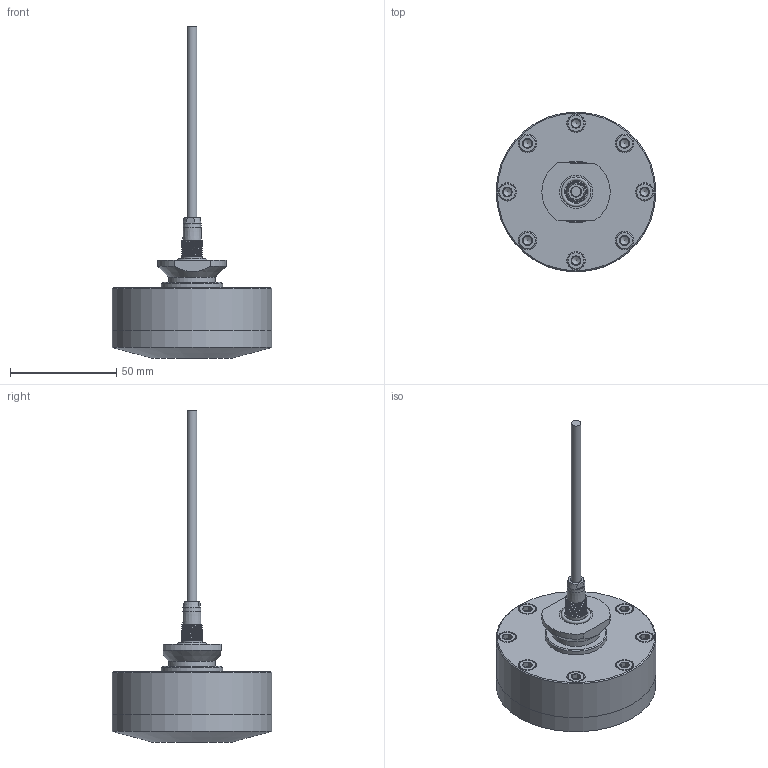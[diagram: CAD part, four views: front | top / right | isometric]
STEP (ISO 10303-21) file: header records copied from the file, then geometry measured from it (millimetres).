
FILE_DESCRIPTION(/* description */ (''),/* implementation_level */ '2;1');
FILE_NAME(/* name */ 'I:/New Datasheets/STEP Models/Pending models/STALC3 (1kN to 50kN) v2.step',/* time_stamp */ '2019-08-05T15:25:00+01:00',/* author */ (''),/* organization */ (''),/* preprocessor_version */ 'ST-DEVELOPER v18',/* originating_system */ 'Autodesk Translation Framework v8.2.0.1029',/* authorisation */ '');
FILE_SCHEMA (('AUTOMOTIVE_DESIGN { 1 0 10303 214 3 1 1 }'));
Length unit declared in the file: millimetre
Products named in the file (2): STALC3 Space model body; STALC3 Space Model
Assembly tree (1 placements, depth 2):
  STALC3 Space model body
    STALC3 Space Model
Bounding box: 75 x 75 x 155.9 mm (x, y, z)
Volume: 142922.4 mm3; surface area: 33508.3 mm2
Topology: 2 solids, 12 shells, 351 faces, 901 edges, 599 vertices
Faces by surface type: plane 155, cone 90, cylinder 80, torus 18, bspline 8
Full cylindrical faces by diameter (mm): 4 x8, 4.6 x1, 5 x8, 5.3 x8, 6 x1, 8.5 x8, 8.526 x6, 8.566 x9, 8.6 x8, 9.621 x1, 10.198 x6, 11.582 x1, 12.916 x1, 15.582 x1, 22 x1, 22.5 x1, 29 x1, 51.5 x1, 52 x1, 75 x1
Entity records: 16531 total; most frequent: CARTESIAN_POINT 7863, DIRECTION 1857, ORIENTED_EDGE 1782, EDGE_CURVE 891, AXIS2_PLACEMENT_3D 745, VERTEX_POINT 598, EDGE_LOOP 405, CIRCLE 399
